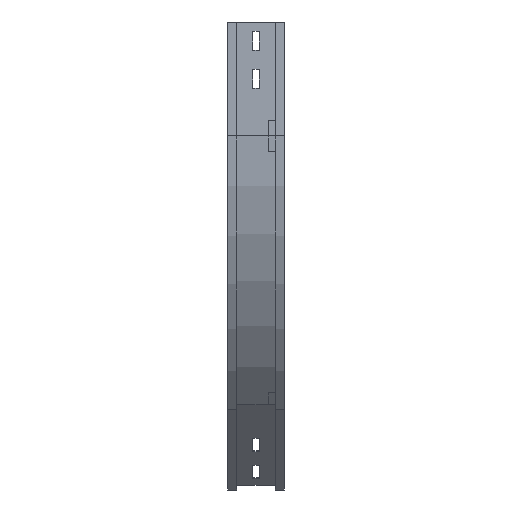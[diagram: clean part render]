
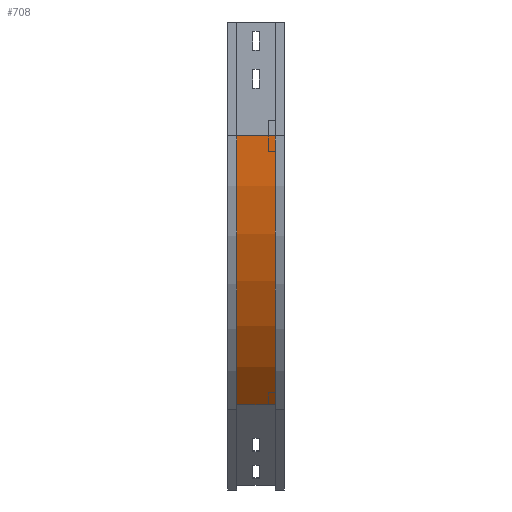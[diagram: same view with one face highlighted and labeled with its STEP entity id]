
A CAD part, left-side view. The second image highlights one B-rep face of the part: STEP entity #708.
In plain terms, the highlighted cylindrical face has radius 500 mm (diameter 1000 mm), a partial arc.
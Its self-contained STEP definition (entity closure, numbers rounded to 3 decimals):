
#24 = CARTESIAN_POINT ( 'NONE',  ( 155.447, 12., -503.553 ) ) ;
#41 = DIRECTION ( 'NONE',  ( 0., -1., 0. ) ) ;
#100 = EDGE_CURVE ( 'NONE', #2979, #391, #1435, .T. ) ;
#156 = CARTESIAN_POINT ( 'NONE',  ( 155.447, 12., -503.553 ) ) ;
#170 = EDGE_LOOP ( 'NONE', ( #2474, #2469, #2275, #2378 ) ) ;
#244 = EDGE_CURVE ( 'NONE', #2324, #1708, #1276, .T. ) ;
#391 = VERTEX_POINT ( 'NONE', #156 ) ;
#449 = FACE_OUTER_BOUND ( 'NONE', #170, .T. ) ;
#494 = CARTESIAN_POINT ( 'NONE',  ( 9., 12., -150. ) ) ;
#574 = DIRECTION ( 'NONE',  ( -1., 0., 0. ) ) ;
#708 = ADVANCED_FACE ( 'NONE', ( #449 ), #3092, .T. ) ;
#765 = DIRECTION ( 'NONE',  ( 0., 0., -1. ) ) ;
#821 = AXIS2_PLACEMENT_3D ( 'NONE', #3105, #2823, #765 ) ;
#998 = CARTESIAN_POINT ( 'NONE',  ( 9., 63., -150. ) ) ;
#1012 = EDGE_CURVE ( 'NONE', #2324, #2979, #2468, .T. ) ;
#1276 = CIRCLE ( 'NONE', #1322, 500. ) ;
#1322 = AXIS2_PLACEMENT_3D ( 'NONE', #3204, #2149, #574 ) ;
#1333 = LINE ( 'NONE', #24, #2473 ) ;
#1376 = CARTESIAN_POINT ( 'NONE',  ( 509., 12., -150. ) ) ;
#1435 = CIRCLE ( 'NONE', #3104, 500. ) ;
#1549 = EDGE_CURVE ( 'NONE', #1708, #391, #1333, .T. ) ;
#1605 = CARTESIAN_POINT ( 'NONE',  ( 155.447, 63., -503.553 ) ) ;
#1661 = VECTOR ( 'NONE', #2800, 1000. ) ;
#1708 = VERTEX_POINT ( 'NONE', #1605 ) ;
#2143 = CARTESIAN_POINT ( 'NONE',  ( 9., 12., -150. ) ) ;
#2149 = DIRECTION ( 'NONE',  ( 0., -1., 0. ) ) ;
#2275 = ORIENTED_EDGE ( 'NONE', *, *, #244, .T. ) ;
#2324 = VERTEX_POINT ( 'NONE', #998 ) ;
#2342 = DIRECTION ( 'NONE',  ( 0., -1., 0. ) ) ;
#2378 = ORIENTED_EDGE ( 'NONE', *, *, #1549, .T. ) ;
#2468 = LINE ( 'NONE', #494, #1661 ) ;
#2469 = ORIENTED_EDGE ( 'NONE', *, *, #1012, .F. ) ;
#2473 = VECTOR ( 'NONE', #2342, 1000. ) ;
#2474 = ORIENTED_EDGE ( 'NONE', *, *, #100, .F. ) ;
#2800 = DIRECTION ( 'NONE',  ( 0., -1., 0. ) ) ;
#2823 = DIRECTION ( 'NONE',  ( 0., -1., 0. ) ) ;
#2861 = DIRECTION ( 'NONE',  ( -1., 0., 0. ) ) ;
#2979 = VERTEX_POINT ( 'NONE', #2143 ) ;
#3092 = CYLINDRICAL_SURFACE ( 'NONE', #821, 500. ) ;
#3104 = AXIS2_PLACEMENT_3D ( 'NONE', #1376, #41, #2861 ) ;
#3105 = CARTESIAN_POINT ( 'NONE',  ( 509., 0., -150. ) ) ;
#3204 = CARTESIAN_POINT ( 'NONE',  ( 509., 63., -150. ) ) ;
